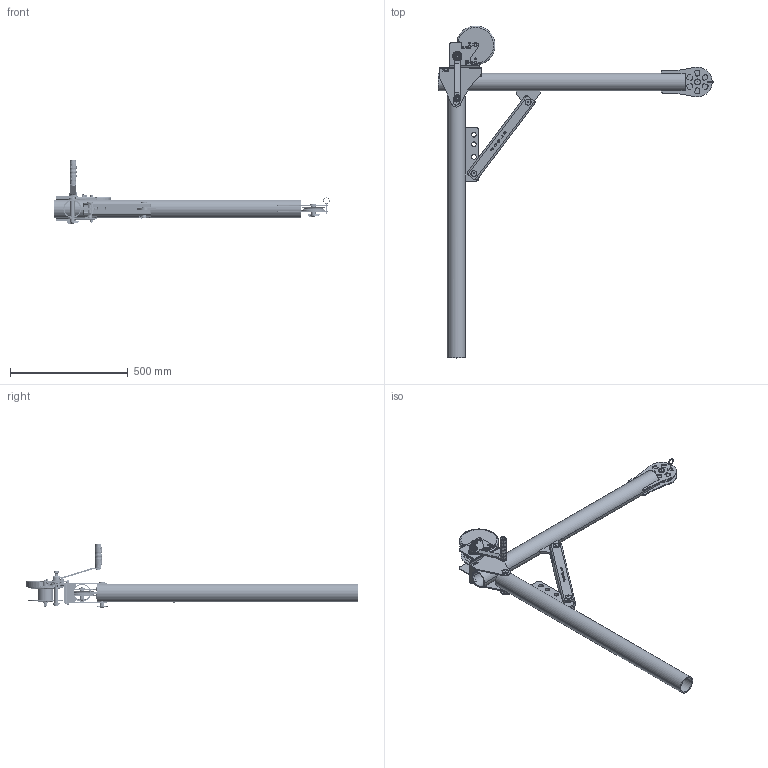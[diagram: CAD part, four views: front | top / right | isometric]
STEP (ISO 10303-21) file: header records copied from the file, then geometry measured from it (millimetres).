
FILE_DESCRIPTION (( 'STEP AP203' ), '1' );
FILE_NAME ('OZ500DAV.STEP', '2022-03-02T20:38:27', ( '' ), ( '' ), 'SwSTEP 2.0', 'SolidWorks 2021', '' );
FILE_SCHEMA (( 'CONFIG_CONTROL_DESIGN' ));
Length unit declared in the file: inch
Products named in the file (26): .375-16 Steel Hex Weld Nut_93560A160; SD7014; SD5003; .375 LOCK WASHER ZINC YELLOW_91104A031; SD5008; .50-13 Steel Hex Weld Nut_93560A180; .375 X 1 HEX BOLT ZINC YELLOW-GRD 8_92620A624; SD5011; SD5007; SD5015; DRI-14; SD7012; .375 FLAT WASHER ZINC YELLOW_98026A031; SD5010; OZ500DAV; SD7005; SD5001; SD5006; SD5009; SD7013; DLB1200A; SD5002; SD5016; SD7004; SD5017; HANG-2
Assembly tree (43 placements, depth 4):
  OZ500DAV
    SD5016
      SD5010
      SD5001
    SD5015
      SD5006
      SD5017
        SD5007
        SD5009  x2
        SD5008  x2
        .50-13 Steel Hex Weld Nut_93560A180  x3
        .375-16 Steel Hex Weld Nut_93560A160  x4
      SD5003  x2
      SD5011
    SD5002
    DLB1200A
    SD7004
    SD7005
    SD7012
    SD7013  x2
    SD7014
    DRI-14
    HANG-2  x4
    .375 X 1 HEX BOLT ZINC YELLOW-GRD 8_92620A624  x3
    .375 LOCK WASHER ZINC YELLOW_91104A031  x3
    .375 FLAT WASHER ZINC YELLOW_98026A031  x3
Bounding box: 1168.37 x 1409.14 x 272.98 mm (x, y, z)
Volume: 3507824.3 mm3; surface area: 1784674.8 mm2
Topology: 39 solids, 78 shells, 4416 faces, 12363 edges, 8130 vertices
Faces by surface type: cylinder 2835, plane 1014, cone 276, bspline 275, torus 16
Entity records: 185939 total; most frequent: CARTESIAN_POINT 84240, DIRECTION 21431, ORIENTED_EDGE 20943, EDGE_CURVE 10503, AXIS2_PLACEMENT_3D 8572, VERTEX_POINT 6932, CIRCLE 5031, VECTOR 4287
